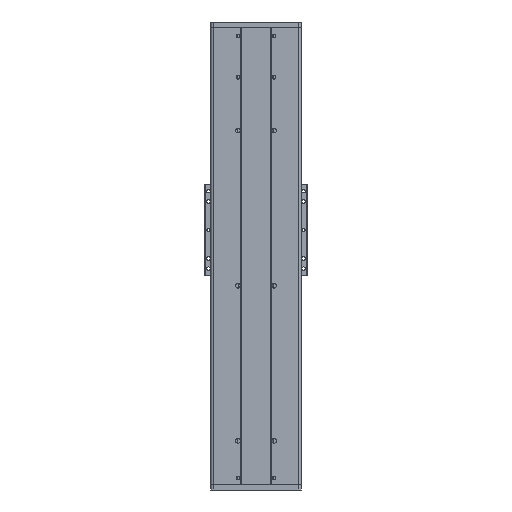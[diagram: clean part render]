
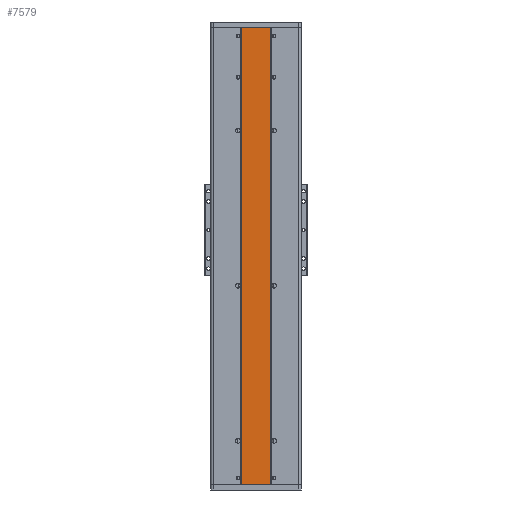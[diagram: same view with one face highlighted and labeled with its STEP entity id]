
A CAD part, front view. The second image highlights one B-rep face of the part: STEP entity #7579.
In plain terms, the highlighted planar face has unit normal (0, -1, 0).
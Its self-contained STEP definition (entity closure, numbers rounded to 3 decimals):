
#352 = VECTOR ( 'NONE', #29796, 1000. ) ;
#2579 = AXIS2_PLACEMENT_3D ( 'NONE', #14125, #17383, #40335 ) ;
#5232 = CARTESIAN_POINT ( 'NONE',  ( 58.27, -85.314, 885. ) ) ;
#6237 = VERTEX_POINT ( 'NONE', #30702 ) ;
#6282 = DIRECTION ( 'NONE',  ( 0., 0., 1. ) ) ;
#7451 = VERTEX_POINT ( 'NONE', #26718 ) ;
#7579 = ADVANCED_FACE ( 'NONE', ( #25580 ), #33772, .F. ) ;
#8485 = LINE ( 'NONE', #38890, #17104 ) ;
#11406 = EDGE_CURVE ( 'NONE', #35644, #39025, #15132, .T. ) ;
#12424 = ORIENTED_EDGE ( 'NONE', *, *, #11406, .T. ) ;
#14125 = CARTESIAN_POINT ( 'NONE',  ( 1.27, -85.314, -995. ) ) ;
#14294 = DIRECTION ( 'NONE',  ( -1., 0., 0. ) ) ;
#14515 = EDGE_CURVE ( 'NONE', #7451, #35644, #19857, .T. ) ;
#15132 = LINE ( 'NONE', #40486, #31538 ) ;
#15486 = ORIENTED_EDGE ( 'NONE', *, *, #33192, .F. ) ;
#17104 = VECTOR ( 'NONE', #6282, 1000. ) ;
#17383 = DIRECTION ( 'NONE',  ( 0., 1., 0. ) ) ;
#19857 = LINE ( 'NONE', #33931, #27565 ) ;
#20855 = DIRECTION ( 'NONE',  ( 0., 0., 1. ) ) ;
#25580 = FACE_OUTER_BOUND ( 'NONE', #27799, .T. ) ;
#26718 = CARTESIAN_POINT ( 'NONE',  ( 58.27, -85.314, 0. ) ) ;
#27565 = VECTOR ( 'NONE', #20855, 1000. ) ;
#27799 = EDGE_LOOP ( 'NONE', ( #30121, #12424, #15486, #34445 ) ) ;
#29796 = DIRECTION ( 'NONE',  ( -1., 0., 0. ) ) ;
#29947 = CARTESIAN_POINT ( 'NONE',  ( 0., -85.314, 0. ) ) ;
#30121 = ORIENTED_EDGE ( 'NONE', *, *, #14515, .T. ) ;
#30702 = CARTESIAN_POINT ( 'NONE',  ( 1.27, -85.314, 0. ) ) ;
#31535 = EDGE_CURVE ( 'NONE', #7451, #6237, #35130, .T. ) ;
#31538 = VECTOR ( 'NONE', #14294, 1000. ) ;
#33192 = EDGE_CURVE ( 'NONE', #6237, #39025, #8485, .T. ) ;
#33289 = CARTESIAN_POINT ( 'NONE',  ( 1.27, -85.314, 885. ) ) ;
#33772 = PLANE ( 'NONE',  #2579 ) ;
#33931 = CARTESIAN_POINT ( 'NONE',  ( 58.27, -85.314, -995. ) ) ;
#34445 = ORIENTED_EDGE ( 'NONE', *, *, #31535, .F. ) ;
#35130 = LINE ( 'NONE', #29947, #352 ) ;
#35644 = VERTEX_POINT ( 'NONE', #5232 ) ;
#38890 = CARTESIAN_POINT ( 'NONE',  ( 1.27, -85.314, -995. ) ) ;
#39025 = VERTEX_POINT ( 'NONE', #33289 ) ;
#40335 = DIRECTION ( 'NONE',  ( 0., 0., 1. ) ) ;
#40486 = CARTESIAN_POINT ( 'NONE',  ( 1.27, -85.314, 885. ) ) ;
